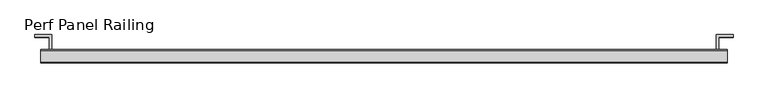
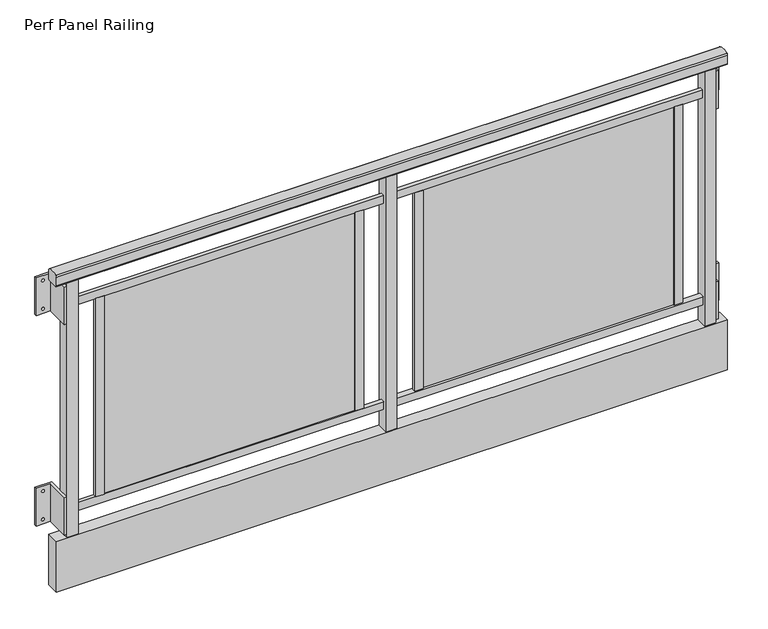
"""IFC4 building model written with IfcOpenShell, lengths in millimetres: proxy geometry, Specialty-Equipment_Endurable-Building-Products_Juliet-Balconies : Perf Panel Railing."""

from ifc_helpers import new_model, si_unit, point, frame, frame_2d, origin, origin_with_axes, place, context, project, spatial, polyline, circle_curve, trimmed, segment, composite_curve, outline, extrude, source, transform, mapped, element, save
from ifc_brep_helpers import plane_surface, revolved_surface, advanced_brep


def perf_panel_railing_4f371f08(model_context):
    return source(origin(), model_context, "Body", "SolidModel", [
        extrude(outline(polyline([(97.63125, -73.10755), (129.38125, -73.10755), (129.38125, -87.22995), (97.63125, -87.22995), (97.63125, -73.10755)])), frame((0.0, 0.0, 114.3), z_axis=(0.0, 0.0, 1.0), x_axis=(1.0, 0.0, 0.0)), (0.0, 0.0, 1.0), 802.1066),
        extrude(outline(polyline([(1121.56875, -73.10755), (1121.56875, -87.22995), (1089.81875, -87.22995), (1089.81875, -73.10755), (1121.56875, -73.10755)])), frame((0.0, 0.0, 114.3), z_axis=(0.0, 0.0, 1.0), x_axis=(1.0, 0.0, 0.0)), (0.0, 0.0, 1.0), 802.1066),
        extrude(outline(polyline([(-97.63125, -73.10755), (-97.63125, -87.22995), (-129.38125, -87.22995), (-129.38125, -73.10755), (-97.63125, -73.10755)])), frame((0.0, 0.0, 114.3), z_axis=(0.0, 0.0, 1.0), x_axis=(1.0, 0.0, 0.0)), (0.0, 0.0, 1.0), 802.1066),
        extrude(outline(polyline([(-1121.56875, -73.10755), (-1089.81875, -73.10755), (-1089.81875, -87.22995), (-1121.56875, -87.22995), (-1121.56875, -73.10755)])), frame((0.0, 0.0, 114.3), z_axis=(0.0, 0.0, 1.0), x_axis=(1.0, 0.0, 0.0)), (0.0, 0.0, 1.0), 802.1066),
        extrude(outline(polyline([(1197.76875, -73.10755), (1197.76875, -87.22995), (21.43125, -87.22995), (21.43125, -73.10755), (1197.76875, -73.10755)])), frame((0.0, 0.0, 916.4066), z_axis=(0.0, 0.0, 1.0), x_axis=(1.0, 0.0, 0.0)), (0.0, 0.0, 1.0), 31.75),
        extrude(outline(polyline([(-1197.76875, -73.10755), (-21.43125, -73.10755), (-21.43125, -87.22995), (-1197.76875, -87.22995), (-1197.76875, -73.10755)])), frame((0.0, 0.0, 916.4066), z_axis=(0.0, 0.0, 1.0), x_axis=(1.0, 0.0, 0.0)), (0.0, 0.0, 1.0), 31.75),
        extrude(outline(polyline([(1197.76875, -68.56095), (1197.76875, -91.77655), (21.43125, -91.77655), (21.43125, -68.56095), (1197.76875, -68.56095)])), frame((0.0, 0.0, 82.55), z_axis=(0.0, 0.0, 1.0), x_axis=(1.0, 0.0, 0.0)), (0.0, 0.0, 1.0), 31.75),
        extrude(outline(polyline([(-1197.76875, -73.10755), (-21.43125, -73.10755), (-21.43125, -87.22995), (-1197.76875, -87.22995), (-1197.76875, -73.10755)])), frame((0.0, 0.0, 82.55), z_axis=(0.0, 0.0, 1.0), x_axis=(1.0, 0.0, 0.0)), (0.0, 0.0, 1.0), 31.75),
        extrude(outline(polyline([(21.43125, -58.7375), (21.43125, -101.6), (-21.43125, -101.6), (-21.43125, -58.7375), (21.43125, -58.7375)])), origin_with_axes(), (0.0, 0.0, 1.0), 1028.7),
        extrude(outline(polyline([(1282.7, -54.76875), (1282.7, -105.56875), (-1282.7, -105.56875), (-1282.7, -54.76875), (1282.7, -54.76875)])), frame((0.0, 0.0, -203.2), z_axis=(0.0, 0.0, 1.0), x_axis=(1.0, 0.0, 0.0)), (0.0, 0.0, 1.0), 203.2),
        extrude(outline(polyline([(-1197.76875, -58.7375), (-1197.76875, -101.6), (-1240.63125, -101.6), (-1240.63125, -58.7375), (-1197.76875, -58.7375)])), origin_with_axes(), (0.0, 0.0, 1.0), 1028.7),
        extrude(outline(polyline([(1240.63125, -58.7375), (1240.63125, -101.6), (1197.76875, -101.6), (1197.76875, -58.7375), (1240.63125, -58.7375)])), origin_with_axes(), (0.0, 0.0, 1.0), 1028.7),
        extrude(outline(composite_curve([segment(polyline([(-54.76875, 1069.1003287), (-54.76875, 1035.05)]), True, "CONTINUOUS"), segment(trimmed(circle_curve(frame_2d((-61.11875, 1035.05)), 6.35), [point((-54.76875, 1035.05))], [point((-61.11875, 1028.7))], False, "CARTESIAN"), True, "CONTINUOUS"), segment(polyline([(-61.11875, 1028.7), (-99.21875, 1028.7)]), True, "CONTINUOUS"), segment(trimmed(circle_curve(frame_2d((-99.21875, 1035.05)), 6.35), [point((-99.21875, 1028.7))], [point((-105.56875, 1035.05))], False, "CARTESIAN"), True, "CONTINUOUS"), segment(polyline([(-105.56875, 1035.05), (-105.56875, 1069.1003287)]), True, "CONTINUOUS"), segment(trimmed(circle_curve(frame_2d((-99.21875, 1069.1003287)), 6.35), [point((-105.56875, 1069.1003287))], [point((-101.8018008, 1074.9012207))], False, "CARTESIAN"), True, "CONTINUOUS"), segment(trimmed(circle_curve(frame_2d((-80.16875, 1026.31875)), 53.18125), [point((-101.8018008, 1074.9012207))], [point((-58.5356992, 1074.9012207))], False, "CARTESIAN"), True, "CONTINUOUS"), segment(trimmed(circle_curve(frame_2d((-61.11875, 1069.1003287)), 6.35), [point((-58.5356992, 1074.9012207))], [point((-54.76875, 1069.1003287))], False, "CARTESIAN"), True, "CONTINUOUS")], self_intersect=False)), frame((-1282.7, 0.0, 0.0), z_axis=(1.0, 0.0, 0.0), x_axis=(0.0, 1.0, 0.0)), (0.0, 0.0, 1.0), 2565.4),
        extrude(outline(polyline([(1089.81875, -76.99375), (1089.81875, -83.34375), (129.38125, -83.34375), (129.38125, -76.99375), (1089.81875, -76.99375)])), frame((0.0, 0.0, 114.3), z_axis=(0.0, 0.0, 1.0), x_axis=(1.0, 0.0, 0.0)), (0.0, 0.0, 1.0), 802.1066),
        extrude(outline(polyline([(-1089.81875, -76.99375), (-129.38125, -76.99375), (-129.38125, -83.34375), (-1089.81875, -83.34375), (-1089.81875, -76.99375)])), frame((0.0, 0.0, 114.3), z_axis=(0.0, 0.0, 1.0), x_axis=(1.0, 0.0, 0.0)), (0.0, 0.0, 1.0), 802.1066),
        advanced_brep(
        [(1240.63125, -101.6, 165.1), (1250.15625, -101.6, 165.1), (1250.15625, -9.525, 165.1), (1304.13125, -9.525, 165.1), (1304.13125, 0.0, 165.1), (1240.63125, 0.0, 165.1), (1240.63125, -101.6, 12.7), (1240.63125, 0.0, 12.7), (1304.13125, 0.0, 12.7), (1304.13125, -9.525, 12.7), (1250.15625, -9.525, 12.7), (1250.15625, -101.6, 12.7), (1273.175, 0.0, 146.05), (1284.2875, 0.0, 146.05), (1273.175, 0.0, 31.75), (1284.2875, 0.0, 31.75), (1284.2875, -9.525, 146.05), (1273.175, -9.525, 146.05), (1284.2875, -9.525, 31.75), (1273.175, -9.525, 31.75)],
        [
            (0, 1),
            (1, 2),
            (2, 3),
            (3, 4),
            (4, 5),
            (5, 0),
            (6, 7),
            (7, 8),
            (8, 9),
            (9, 10),
            (10, 11),
            (11, 6),
            (5, 7),
            (6, 0),
            (4, 8),
            (12, 13, circle_curve(frame((1278.73125, 0.0, 146.05), z_axis=(0.0, -1.0, 0.0), x_axis=(-1.0, 0.0, 0.0)), 5.55625)),
            (13, 12, circle_curve(frame((1278.73125, 0.0, 146.05), z_axis=(0.0, -1.0, 0.0), x_axis=(-1.0, 0.0, 0.0)), 5.55625)),
            (14, 15, circle_curve(frame((1278.73125, 0.0, 31.75), z_axis=(0.0, -1.0, 0.0), x_axis=(-1.0, 0.0, 0.0)), 5.55625)),
            (15, 14, circle_curve(frame((1278.73125, 0.0, 31.75), z_axis=(0.0, -1.0, 0.0), x_axis=(-1.0, 0.0, 0.0)), 5.55625)),
            (3, 9),
            (2, 10),
            (16, 17, circle_curve(frame((1278.73125, -9.525, 146.05), z_axis=(0.0, 1.0, 0.0), x_axis=(-1.0, 0.0, 0.0)), 5.55625)),
            (17, 16, circle_curve(frame((1278.73125, -9.525, 146.05), z_axis=(0.0, 1.0, 0.0), x_axis=(-1.0, 0.0, 0.0)), 5.55625)),
            (18, 19, circle_curve(frame((1278.73125, -9.525, 31.75), z_axis=(0.0, 1.0, 0.0), x_axis=(-1.0, 0.0, 0.0)), 5.55625)),
            (19, 18, circle_curve(frame((1278.73125, -9.525, 31.75), z_axis=(0.0, 1.0, 0.0), x_axis=(-1.0, 0.0, 0.0)), 5.55625)),
            (1, 11),
            (16, 13),
            (12, 17),
            (18, 15),
            (14, 19),
        ],
        [
            plane_surface(frame((1240.63125, -101.6, 165.1), z_axis=(0.0, 0.0, 1.0), x_axis=(1.0, 0.0, 0.0))),
            plane_surface(frame((1240.63125, -101.6, 12.7), z_axis=(0.0, 0.0, -1.0), x_axis=(-1.0, 0.0, 0.0))),
            plane_surface(frame((1240.63125, 0.0, 165.1), z_axis=(-1.0, 0.0, 0.0), x_axis=(0.0, 0.0, -1.0))),
            plane_surface(frame((1304.13125, 0.0, 165.1), z_axis=(0.0, 1.0, 0.0), x_axis=(0.0, 0.0, -1.0))),
            plane_surface(frame((1304.13125, -9.525, 165.1), z_axis=(1.0, 0.0, 0.0), x_axis=(0.0, 0.0, -1.0))),
            plane_surface(frame((1250.15625, -9.525, 165.1), z_axis=(0.0, -1.0, 0.0), x_axis=(0.0, 0.0, -1.0))),
            plane_surface(frame((1250.15625, -101.6, 165.1), z_axis=(1.0, 0.0, 0.0), x_axis=(0.0, 0.0, -1.0))),
            plane_surface(frame((1240.63125, -101.6, 165.1), z_axis=(0.0, -1.0, 0.0), x_axis=(0.0, 0.0, -1.0))),
            revolved_surface(polyline([(1273.175, -9.525, 146.05), (1273.175, 0.0, 146.05)]), (1278.73125, 0.0, 146.05), (0.0, -1.0, 0.0)),
            revolved_surface(polyline([(1273.175, -9.525, 31.75), (1273.175, 0.0, 31.75)]), (1278.73125, 0.0, 31.75), (0.0, -1.0, 0.0)),
        ],
        [
            (0, [[1, 2, 3, 4, 5, 6]]),
            (1, [[7, 8, 9, 10, 11, 12]]),
            (2, [[-6, 13, -7, 14]]),
            (3, [[-5, 15, -8, -13], [16, 17], [18, 19]]),
            (4, [[-4, 20, -9, -15]]),
            (5, [[-3, 21, -10, -20], [22, 23], [24, 25]]),
            (6, [[-2, 26, -11, -21]]),
            (7, [[-1, -14, -12, -26]]),
            (8, [[27, -16, 28, -22]]),
            (8, [[-27, -23, -28, -17]]),
            (9, [[29, -18, 30, -24]]),
            (9, [[-29, -25, -30, -19]]),
        ],
    ),
        advanced_brep(
        [(1240.63125, -101.6, 1016.0), (1250.15625, -101.6, 1016.0), (1250.15625, -9.525, 1016.0), (1304.13125, -9.525, 1016.0), (1304.13125, 0.0, 1016.0), (1240.63125, 0.0, 1016.0), (1240.63125, -101.6, 863.6), (1240.63125, 0.0, 863.6), (1304.13125, 0.0, 863.6), (1304.13125, -9.525, 863.6), (1250.15625, -9.525, 863.6), (1250.15625, -101.6, 863.6), (1273.175, 0.0, 996.95), (1284.2875, 0.0, 996.95), (1273.175, 0.0, 882.65), (1284.2875, 0.0, 882.65), (1284.2875, -9.525, 996.95), (1273.175, -9.525, 996.95), (1284.2875, -9.525, 882.65), (1273.175, -9.525, 882.65)],
        [
            (0, 1),
            (1, 2),
            (2, 3),
            (3, 4),
            (4, 5),
            (5, 0),
            (6, 7),
            (7, 8),
            (8, 9),
            (9, 10),
            (10, 11),
            (11, 6),
            (5, 7),
            (6, 0),
            (4, 8),
            (12, 13, circle_curve(frame((1278.73125, 0.0, 996.95), z_axis=(0.0, -1.0, 0.0), x_axis=(-1.0, 0.0, 0.0)), 5.55625)),
            (13, 12, circle_curve(frame((1278.73125, 0.0, 996.95), z_axis=(0.0, -1.0, 0.0), x_axis=(-1.0, 0.0, 0.0)), 5.55625)),
            (14, 15, circle_curve(frame((1278.73125, 0.0, 882.65), z_axis=(0.0, -1.0, 0.0), x_axis=(-1.0, 0.0, 0.0)), 5.55625)),
            (15, 14, circle_curve(frame((1278.73125, 0.0, 882.65), z_axis=(0.0, -1.0, 0.0), x_axis=(-1.0, 0.0, 0.0)), 5.55625)),
            (3, 9),
            (2, 10),
            (16, 17, circle_curve(frame((1278.73125, -9.525, 996.95), z_axis=(0.0, 1.0, 0.0), x_axis=(-1.0, 0.0, 0.0)), 5.55625)),
            (17, 16, circle_curve(frame((1278.73125, -9.525, 996.95), z_axis=(0.0, 1.0, 0.0), x_axis=(-1.0, 0.0, 0.0)), 5.55625)),
            (18, 19, circle_curve(frame((1278.73125, -9.525, 882.65), z_axis=(0.0, 1.0, 0.0), x_axis=(-1.0, 0.0, 0.0)), 5.55625)),
            (19, 18, circle_curve(frame((1278.73125, -9.525, 882.65), z_axis=(0.0, 1.0, 0.0), x_axis=(-1.0, 0.0, 0.0)), 5.55625)),
            (1, 11),
            (16, 13),
            (12, 17),
            (18, 15),
            (14, 19),
        ],
        [
            plane_surface(frame((1240.63125, -101.6, 1016.0), z_axis=(0.0, 0.0, 1.0), x_axis=(1.0, 0.0, 0.0))),
            plane_surface(frame((1240.63125, -101.6, 863.6), z_axis=(0.0, 0.0, -1.0), x_axis=(-1.0, 0.0, 0.0))),
            plane_surface(frame((1240.63125, 0.0, 1016.0), z_axis=(-1.0, 0.0, 0.0), x_axis=(0.0, 0.0, -1.0))),
            plane_surface(frame((1304.13125, 0.0, 1016.0), z_axis=(0.0, 1.0, 0.0), x_axis=(0.0, 0.0, -1.0))),
            plane_surface(frame((1304.13125, -9.525, 1016.0), z_axis=(1.0, 0.0, 0.0), x_axis=(0.0, 0.0, -1.0))),
            plane_surface(frame((1250.15625, -9.525, 1016.0), z_axis=(0.0, -1.0, 0.0), x_axis=(0.0, 0.0, -1.0))),
            plane_surface(frame((1250.15625, -101.6, 1016.0), z_axis=(1.0, 0.0, 0.0), x_axis=(0.0, 0.0, -1.0))),
            plane_surface(frame((1240.63125, -101.6, 1016.0), z_axis=(0.0, -1.0, 0.0), x_axis=(0.0, 0.0, -1.0))),
            revolved_surface(polyline([(1273.175, -9.525, 996.95), (1273.175, 0.0, 996.95)]), (1278.73125, 0.0, 996.95), (0.0, -1.0, 0.0)),
            revolved_surface(polyline([(1273.175, -9.525, 882.65), (1273.175, 0.0, 882.65)]), (1278.73125, 0.0, 882.65), (0.0, -1.0, 0.0)),
        ],
        [
            (0, [[1, 2, 3, 4, 5, 6]]),
            (1, [[7, 8, 9, 10, 11, 12]]),
            (2, [[-6, 13, -7, 14]]),
            (3, [[-5, 15, -8, -13], [16, 17], [18, 19]]),
            (4, [[-4, 20, -9, -15]]),
            (5, [[-3, 21, -10, -20], [22, 23], [24, 25]]),
            (6, [[-2, 26, -11, -21]]),
            (7, [[-1, -14, -12, -26]]),
            (8, [[27, -16, 28, -22]]),
            (8, [[-27, -23, -28, -17]]),
            (9, [[29, -18, 30, -24]]),
            (9, [[-29, -25, -30, -19]]),
        ],
    ),
        advanced_brep(
        [(-1240.63125, -101.6, 165.1), (-1240.63125, 0.0, 165.1), (-1304.13125, 0.0, 165.1), (-1304.13125, -9.525, 165.1), (-1250.15625, -9.525, 165.1), (-1250.15625, -101.6, 165.1), (-1240.63125, -101.6, 12.7), (-1250.15625, -101.6, 12.7), (-1250.15625, -9.525, 12.7), (-1304.13125, -9.525, 12.7), (-1304.13125, 0.0, 12.7), (-1240.63125, 0.0, 12.7), (-1284.2875, 0.0, 146.05), (-1273.175, 0.0, 146.05), (-1284.2875, 0.0, 31.75), (-1273.175, 0.0, 31.75), (-1273.175, -9.525, 146.05), (-1284.2875, -9.525, 146.05), (-1273.175, -9.525, 31.75), (-1284.2875, -9.525, 31.75)],
        [
            (0, 1),
            (1, 2),
            (2, 3),
            (3, 4),
            (4, 5),
            (5, 0),
            (6, 7),
            (7, 8),
            (8, 9),
            (9, 10),
            (10, 11),
            (11, 6),
            (0, 6),
            (11, 1),
            (10, 2),
            (12, 13, circle_curve(frame((-1278.73125, 0.0, 146.05), z_axis=(0.0, -1.0, 0.0), x_axis=(1.0, 0.0, 0.0)), 5.55625)),
            (13, 12, circle_curve(frame((-1278.73125, 0.0, 146.05), z_axis=(0.0, -1.0, 0.0), x_axis=(1.0, 0.0, 0.0)), 5.55625)),
            (14, 15, circle_curve(frame((-1278.73125, 0.0, 31.75), z_axis=(0.0, -1.0, 0.0), x_axis=(1.0, 0.0, 0.0)), 5.55625)),
            (15, 14, circle_curve(frame((-1278.73125, 0.0, 31.75), z_axis=(0.0, -1.0, 0.0), x_axis=(1.0, 0.0, 0.0)), 5.55625)),
            (9, 3),
            (8, 4),
            (16, 17, circle_curve(frame((-1278.73125, -9.525, 146.05), z_axis=(0.0, 1.0, 0.0), x_axis=(1.0, 0.0, 0.0)), 5.55625)),
            (17, 16, circle_curve(frame((-1278.73125, -9.525, 146.05), z_axis=(0.0, 1.0, 0.0), x_axis=(1.0, 0.0, 0.0)), 5.55625)),
            (18, 19, circle_curve(frame((-1278.73125, -9.525, 31.75), z_axis=(0.0, 1.0, 0.0), x_axis=(1.0, 0.0, 0.0)), 5.55625)),
            (19, 18, circle_curve(frame((-1278.73125, -9.525, 31.75), z_axis=(0.0, 1.0, 0.0), x_axis=(1.0, 0.0, 0.0)), 5.55625)),
            (7, 5),
            (16, 13),
            (12, 17),
            (18, 15),
            (14, 19),
        ],
        [
            plane_surface(frame((-1240.63125, 0.0, 165.1), z_axis=(0.0, 0.0, 1.0), x_axis=(0.0, 1.0, 0.0))),
            plane_surface(frame((-1240.63125, 0.0, 12.7), z_axis=(0.0, 0.0, -1.0), x_axis=(0.0, -1.0, 0.0))),
            plane_surface(frame((-1240.63125, -101.6, 165.1), z_axis=(1.0, 0.0, 0.0), x_axis=(0.0, 0.0, -1.0))),
            plane_surface(frame((-1240.63125, 0.0, 165.1), z_axis=(0.0, 1.0, 0.0), x_axis=(0.0, 0.0, -1.0))),
            plane_surface(frame((-1304.13125, 0.0, 165.1), z_axis=(-1.0, 0.0, 0.0), x_axis=(0.0, 0.0, -1.0))),
            plane_surface(frame((-1304.13125, -9.525, 165.1), z_axis=(0.0, -1.0, 0.0), x_axis=(0.0, 0.0, -1.0))),
            plane_surface(frame((-1250.15625, -9.525, 165.1), z_axis=(-1.0, 0.0, 0.0), x_axis=(0.0, 0.0, -1.0))),
            plane_surface(frame((-1250.15625, -101.6, 165.1), z_axis=(0.0, -1.0, 0.0), x_axis=(0.0, 0.0, -1.0))),
            revolved_surface(polyline([(-1273.175, -9.525, 146.05), (-1273.175, 0.0, 146.05)]), (-1278.73125, 0.0, 146.05), (0.0, -1.0, 0.0)),
            revolved_surface(polyline([(-1273.175, -9.525, 31.75), (-1273.175, 0.0, 31.75)]), (-1278.73125, 0.0, 31.75), (0.0, -1.0, 0.0)),
        ],
        [
            (0, [[1, 2, 3, 4, 5, 6]]),
            (1, [[7, 8, 9, 10, 11, 12]]),
            (2, [[-1, 13, -12, 14]]),
            (3, [[-2, -14, -11, 15], [16, 17], [18, 19]]),
            (4, [[-3, -15, -10, 20]]),
            (5, [[-4, -20, -9, 21], [22, 23], [24, 25]]),
            (6, [[-5, -21, -8, 26]]),
            (7, [[-6, -26, -7, -13]]),
            (8, [[27, -16, 28, -22]]),
            (8, [[-27, -23, -28, -17]]),
            (9, [[29, -18, 30, -24]]),
            (9, [[-29, -25, -30, -19]]),
        ],
    ),
        advanced_brep(
        [(-1240.63125, -101.6, 1016.0), (-1240.63125, 0.0, 1016.0), (-1304.13125, 0.0, 1016.0), (-1304.13125, -9.525, 1016.0), (-1250.15625, -9.525, 1016.0), (-1250.15625, -101.6, 1016.0), (-1240.63125, -101.6, 863.6), (-1250.15625, -101.6, 863.6), (-1250.15625, -9.525, 863.6), (-1304.13125, -9.525, 863.6), (-1304.13125, 0.0, 863.6), (-1240.63125, 0.0, 863.6), (-1284.2875, 0.0, 996.95), (-1273.175, 0.0, 996.95), (-1284.2875, 0.0, 882.65), (-1273.175, 0.0, 882.65), (-1273.175, -9.525, 996.95), (-1284.2875, -9.525, 996.95), (-1273.175, -9.525, 882.65), (-1284.2875, -9.525, 882.65)],
        [
            (0, 1),
            (1, 2),
            (2, 3),
            (3, 4),
            (4, 5),
            (5, 0),
            (6, 7),
            (7, 8),
            (8, 9),
            (9, 10),
            (10, 11),
            (11, 6),
            (0, 6),
            (11, 1),
            (10, 2),
            (12, 13, circle_curve(frame((-1278.73125, 0.0, 996.95), z_axis=(0.0, -1.0, 0.0), x_axis=(1.0, 0.0, 0.0)), 5.55625)),
            (13, 12, circle_curve(frame((-1278.73125, 0.0, 996.95), z_axis=(0.0, -1.0, 0.0), x_axis=(1.0, 0.0, 0.0)), 5.55625)),
            (14, 15, circle_curve(frame((-1278.73125, 0.0, 882.65), z_axis=(0.0, -1.0, 0.0), x_axis=(1.0, 0.0, 0.0)), 5.55625)),
            (15, 14, circle_curve(frame((-1278.73125, 0.0, 882.65), z_axis=(0.0, -1.0, 0.0), x_axis=(1.0, 0.0, 0.0)), 5.55625)),
            (9, 3),
            (8, 4),
            (16, 17, circle_curve(frame((-1278.73125, -9.525, 996.95), z_axis=(0.0, 1.0, 0.0), x_axis=(1.0, 0.0, 0.0)), 5.55625)),
            (17, 16, circle_curve(frame((-1278.73125, -9.525, 996.95), z_axis=(0.0, 1.0, 0.0), x_axis=(1.0, 0.0, 0.0)), 5.55625)),
            (18, 19, circle_curve(frame((-1278.73125, -9.525, 882.65), z_axis=(0.0, 1.0, 0.0), x_axis=(1.0, 0.0, 0.0)), 5.55625)),
            (19, 18, circle_curve(frame((-1278.73125, -9.525, 882.65), z_axis=(0.0, 1.0, 0.0), x_axis=(1.0, 0.0, 0.0)), 5.55625)),
            (7, 5),
            (16, 13),
            (12, 17),
            (18, 15),
            (14, 19),
        ],
        [
            plane_surface(frame((-1240.63125, 0.0, 1016.0), z_axis=(0.0, 0.0, 1.0), x_axis=(0.0, 1.0, 0.0))),
            plane_surface(frame((-1240.63125, 0.0, 863.6), z_axis=(0.0, 0.0, -1.0), x_axis=(0.0, -1.0, 0.0))),
            plane_surface(frame((-1240.63125, -101.6, 1016.0), z_axis=(1.0, 0.0, 0.0), x_axis=(0.0, 0.0, -1.0))),
            plane_surface(frame((-1240.63125, 0.0, 1016.0), z_axis=(0.0, 1.0, 0.0), x_axis=(0.0, 0.0, -1.0))),
            plane_surface(frame((-1304.13125, 0.0, 1016.0), z_axis=(-1.0, 0.0, 0.0), x_axis=(0.0, 0.0, -1.0))),
            plane_surface(frame((-1304.13125, -9.525, 1016.0), z_axis=(0.0, -1.0, 0.0), x_axis=(0.0, 0.0, -1.0))),
            plane_surface(frame((-1250.15625, -9.525, 1016.0), z_axis=(-1.0, 0.0, 0.0), x_axis=(0.0, 0.0, -1.0))),
            plane_surface(frame((-1250.15625, -101.6, 1016.0), z_axis=(0.0, -1.0, 0.0), x_axis=(0.0, 0.0, -1.0))),
            revolved_surface(polyline([(-1273.175, -9.525, 996.95), (-1273.175, 0.0, 996.95)]), (-1278.73125, 0.0, 996.95), (0.0, -1.0, 0.0)),
            revolved_surface(polyline([(-1273.175, -9.525, 882.65), (-1273.175, 0.0, 882.65)]), (-1278.73125, 0.0, 882.65), (0.0, -1.0, 0.0)),
        ],
        [
            (0, [[1, 2, 3, 4, 5, 6]]),
            (1, [[7, 8, 9, 10, 11, 12]]),
            (2, [[-1, 13, -12, 14]]),
            (3, [[-2, -14, -11, 15], [16, 17], [18, 19]]),
            (4, [[-3, -15, -10, 20]]),
            (5, [[-4, -20, -9, 21], [22, 23], [24, 25]]),
            (6, [[-5, -21, -8, 26]]),
            (7, [[-6, -26, -7, -13]]),
            (8, [[27, -16, 28, -22]]),
            (8, [[-27, -23, -28, -17]]),
            (9, [[29, -18, 30, -24]]),
            (9, [[-29, -25, -30, -19]]),
        ],
    ),
    ])


if __name__ == "__main__":
    model = new_model("IFC4")
    model_context = context("Model", 3, world=origin())
    ifc_project = project(units=[si_unit("LENGTHUNIT", "METRE", prefix="MILLI")], contexts=[model_context])
    site = spatial("IfcSite", under=ifc_project)
    building = spatial("IfcBuilding", under=site)
    placement = place(None, origin())
    perf_panel_railing_shape = perf_panel_railing_4f371f08(model_context)
    element("IfcBuildingElementProxy", 1, Name="Specialty-Equipment_Endurable-Building-Products_Juliet-Balconies : Perf Panel Railing", ObjectType="Specialty-Equipment_Endurable-Building-Products_Juliet-Balconies : Perf Panel Railing", at=placement, inside=building, context=model_context, shape_type="MappedRepresentation", body=[
        mapped(perf_panel_railing_shape, transform((0.0, 0.0, 0.0), x_axis=(1.0, 0.0, 0.0), y_axis=(0.0, 1.0, 0.0), z_axis=(0.0, 0.0, 1.0))),
    ])
    save(model, "model.ifc")
